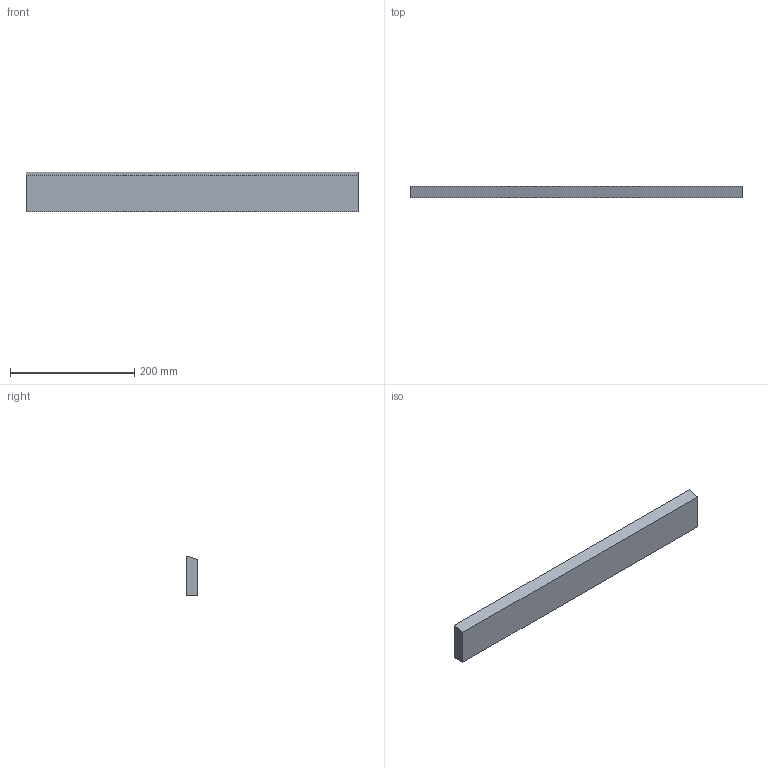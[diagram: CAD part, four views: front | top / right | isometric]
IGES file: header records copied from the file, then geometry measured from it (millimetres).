
Start section:  PTC IGES file: C:\Documents and Settings\Brad\Desktop\IGES\front_corner _lower.igs
Global section: file name: C:\Documents and Settings\Brad\Desktop\IGES\front_corner_lower.igs; native system: Brad by Parametric Technology Corporation; preprocessor: 2003250; author: Unknown; organization: PTC; date: 040521.142625; units: inch
Bounding box: 533.4 x 19.05 x 63.99 mm (x, y, z)
Volume: 624052.4 mm3; surface area: 88179.8 mm2
Topology: 1 solids, 1 shells, 7 faces, 15 edges, 10 vertices
Faces by surface type: bspline 7
